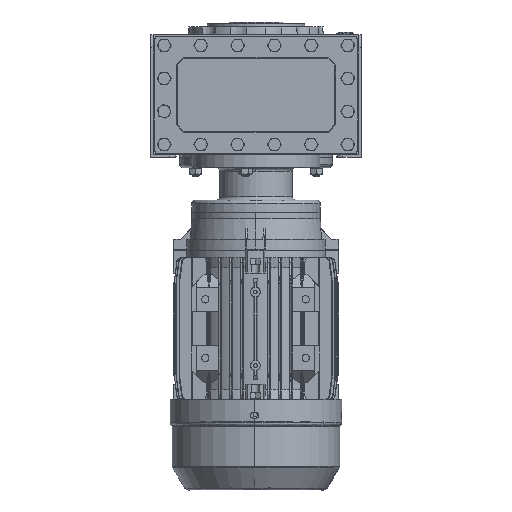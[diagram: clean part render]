
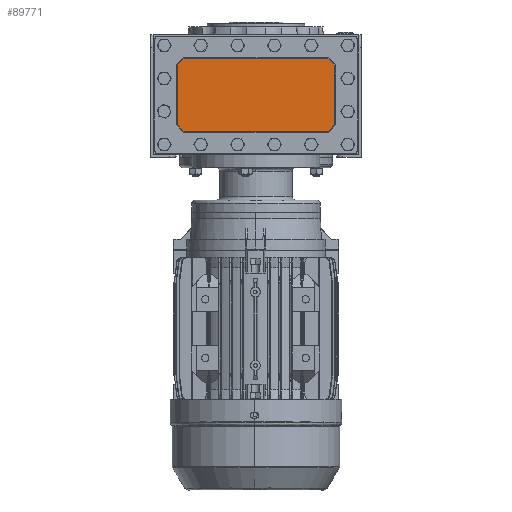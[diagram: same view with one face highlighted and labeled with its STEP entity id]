
A CAD part, front view. The second image highlights one B-rep face of the part: STEP entity #89771.
In plain terms, the highlighted planar face has unit normal (0, -1, 0).
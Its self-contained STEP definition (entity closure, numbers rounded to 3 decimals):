
#5691 = ORIENTED_EDGE ( 'NONE', *, *, #78988, .F. ) ;
#5700 = ORIENTED_EDGE ( 'NONE', *, *, #79048, .F. ) ;
#5704 = ORIENTED_EDGE ( 'NONE', *, *, #78847, .F. ) ;
#5722 = ORIENTED_EDGE ( 'NONE', *, *, #79027, .F. ) ;
#5756 = ORIENTED_EDGE ( 'NONE', *, *, #78860, .F. ) ;
#5782 = ORIENTED_EDGE ( 'NONE', *, *, #79046, .F. ) ;
#5801 = ORIENTED_EDGE ( 'NONE', *, *, #78937, .F. ) ;
#5860 = ORIENTED_EDGE ( 'NONE', *, *, #78883, .F. ) ;
#31078 = EDGE_LOOP ( 'NONE', ( #5782, #5722, #5700, #5801, #5860, #5704, #5756, #5691 ) ) ;
#42397 = CARTESIAN_POINT ( 'NONE',  ( -64.621, -71., 75.621 ) ) ;
#42406 = DIRECTION ( 'NONE',  ( 0.707, 0., 0.707 ) ) ;
#42409 = DIRECTION ( 'NONE',  ( 1., 0., 0. ) ) ;
#42426 = CARTESIAN_POINT ( 'NONE',  ( 59., -71., 81.464 ) ) ;
#42460 = DIRECTION ( 'NONE',  ( 0.707, 0., -0.707 ) ) ;
#42468 = CARTESIAN_POINT ( 'NONE',  ( 64.621, -71., 75.621 ) ) ;
#43236 = CARTESIAN_POINT ( 'NONE',  ( -58.778, -71., 21.536 ) ) ;
#44702 = LINE ( 'NONE', #42426, #44772 ) ;
#44772 = VECTOR ( 'NONE', #42409, 1000. ) ;
#50182 = VECTOR ( 'NONE', #53707, 1000. ) ;
#50199 = VECTOR ( 'NONE', #54102, 1000. ) ;
#50228 = LINE ( 'NONE', #53887, #50260 ) ;
#50260 = VECTOR ( 'NONE', #53812, 1000. ) ;
#50275 = LINE ( 'NONE', #53617, #50182 ) ;
#50289 = LINE ( 'NONE', #54097, #50199 ) ;
#50335 = LINE ( 'NONE', #54086, #50403 ) ;
#50372 = LINE ( 'NONE', #54263, #50411 ) ;
#50403 = VECTOR ( 'NONE', #54113, 1000. ) ;
#50411 = VECTOR ( 'NONE', #54215, 1000. ) ;
#52268 = VECTOR ( 'NONE', #42460, 1000. ) ;
#52281 = VECTOR ( 'NONE', #42406, 1000. ) ;
#52283 = LINE ( 'NONE', #42468, #52268 ) ;
#52335 = LINE ( 'NONE', #42397, #52281 ) ;
#53617 = CARTESIAN_POINT ( 'NONE',  ( 64.464, -71., 27. ) ) ;
#53707 = DIRECTION ( 'NONE',  ( 0., 0., -1. ) ) ;
#53812 = DIRECTION ( 'NONE',  ( 0., 0., 1. ) ) ;
#53887 = CARTESIAN_POINT ( 'NONE',  ( -64.464, -71., 27. ) ) ;
#54086 = CARTESIAN_POINT ( 'NONE',  ( -58.621, -71., 21.379 ) ) ;
#54097 = CARTESIAN_POINT ( 'NONE',  ( 59., -71., 21.536 ) ) ;
#54102 = DIRECTION ( 'NONE',  ( -1., 0., 0. ) ) ;
#54113 = DIRECTION ( 'NONE',  ( -0.707, 0., 0.707 ) ) ;
#54215 = DIRECTION ( 'NONE',  ( -0.707, 0., -0.707 ) ) ;
#54263 = CARTESIAN_POINT ( 'NONE',  ( 58.621, -71., 21.379 ) ) ;
#61347 = CARTESIAN_POINT ( 'NONE',  ( -64.464, -71., 75.778 ) ) ;
#61374 = CARTESIAN_POINT ( 'NONE',  ( 58.778, -71., 81.464 ) ) ;
#61378 = CARTESIAN_POINT ( 'NONE',  ( 64.464, -71., 75.778 ) ) ;
#61422 = CARTESIAN_POINT ( 'NONE',  ( -64.464, -71., 27.222 ) ) ;
#61440 = CARTESIAN_POINT ( 'NONE',  ( 58.778, -71., 21.536 ) ) ;
#61448 = CARTESIAN_POINT ( 'NONE',  ( -58.778, -71., 81.464 ) ) ;
#61454 = CARTESIAN_POINT ( 'NONE',  ( 64.464, -71., 27.222 ) ) ;
#78847 = EDGE_CURVE ( 'NONE', #100515, #100577, #44702, .T. ) ;
#78860 = EDGE_CURVE ( 'NONE', #100564, #100515, #52335, .T. ) ;
#78883 = EDGE_CURVE ( 'NONE', #100577, #100508, #52283, .T. ) ;
#78937 = EDGE_CURVE ( 'NONE', #100508, #100578, #50275, .T. ) ;
#78988 = EDGE_CURVE ( 'NONE', #100519, #100564, #50228, .T. ) ;
#79027 = EDGE_CURVE ( 'NONE', #100504, #100498, #50289, .T. ) ;
#79046 = EDGE_CURVE ( 'NONE', #100498, #100519, #50335, .T. ) ;
#79048 = EDGE_CURVE ( 'NONE', #100578, #100504, #50372, .T. ) ;
#84233 = AXIS2_PLACEMENT_3D ( 'NONE', #109486, #109490, #109525 ) ;
#89045 = FACE_OUTER_BOUND ( 'NONE', #31078, .T. ) ;
#89771 = ADVANCED_FACE ( 'NONE', ( #89045 ), #109531, .T. ) ;
#100498 = VERTEX_POINT ( 'NONE', #43236 ) ;
#100504 = VERTEX_POINT ( 'NONE', #61440 ) ;
#100508 = VERTEX_POINT ( 'NONE', #61378 ) ;
#100515 = VERTEX_POINT ( 'NONE', #61448 ) ;
#100519 = VERTEX_POINT ( 'NONE', #61422 ) ;
#100564 = VERTEX_POINT ( 'NONE', #61347 ) ;
#100577 = VERTEX_POINT ( 'NONE', #61374 ) ;
#100578 = VERTEX_POINT ( 'NONE', #61454 ) ;
#109486 = CARTESIAN_POINT ( 'NONE',  ( 0., -71., 0. ) ) ;
#109490 = DIRECTION ( 'NONE',  ( 0., -1., 0. ) ) ;
#109525 = DIRECTION ( 'NONE',  ( 1., 0., 0. ) ) ;
#109531 = PLANE ( 'NONE',  #84233 ) ;
